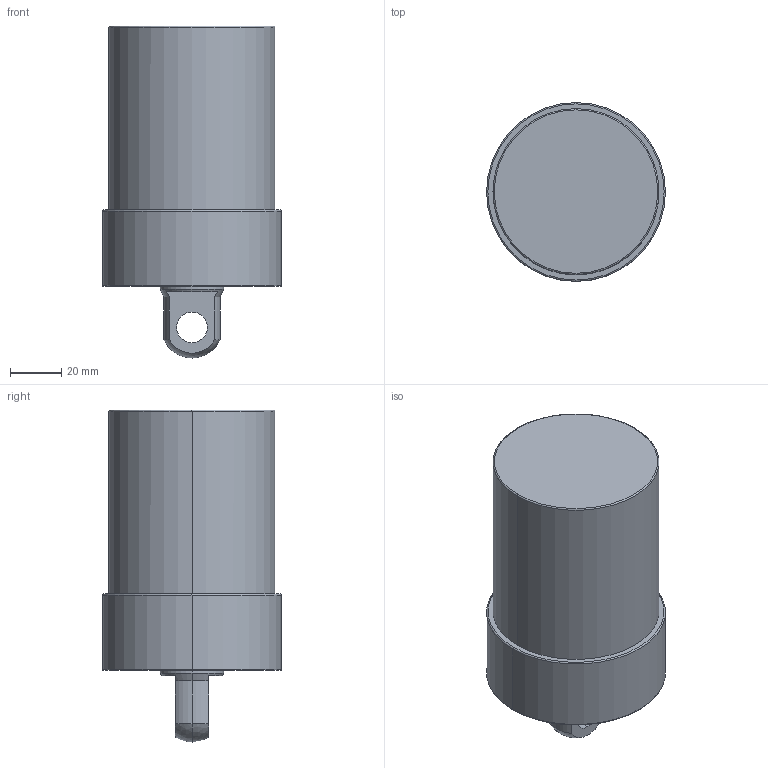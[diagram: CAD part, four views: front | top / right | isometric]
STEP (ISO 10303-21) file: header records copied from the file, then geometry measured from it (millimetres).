
FILE_DESCRIPTION (( 'STEP AP203' ), '1' );
FILE_NAME ('CLLU-065GP-055.STEP', '2020-01-06T09:24:47', ( '' ), ( '' ), 'SwSTEP 2.0', 'SolidWorks 2015', '' );
FILE_SCHEMA (( 'CONFIG_CONTROL_DESIGN' ));
Length unit declared in the file: millimetre
Products named in the file (1): CLLU-065GP-055
Bounding box: 70 x 70 x 130 mm (x, y, z)
Volume: 358559.8 mm3; surface area: 31797.8 mm2
Topology: 1 solids, 1 shells, 58 faces, 131 edges, 75 vertices
Faces by surface type: cylinder 23, cone 18, plane 9, torus 6, sphere 2
Entity records: 1658 total; most frequent: DIRECTION 311, CARTESIAN_POINT 269, ORIENTED_EDGE 246, AXIS2_PLACEMENT_3D 133, EDGE_CURVE 123, VERTEX_POINT 75, CIRCLE 74, EDGE_LOOP 68
